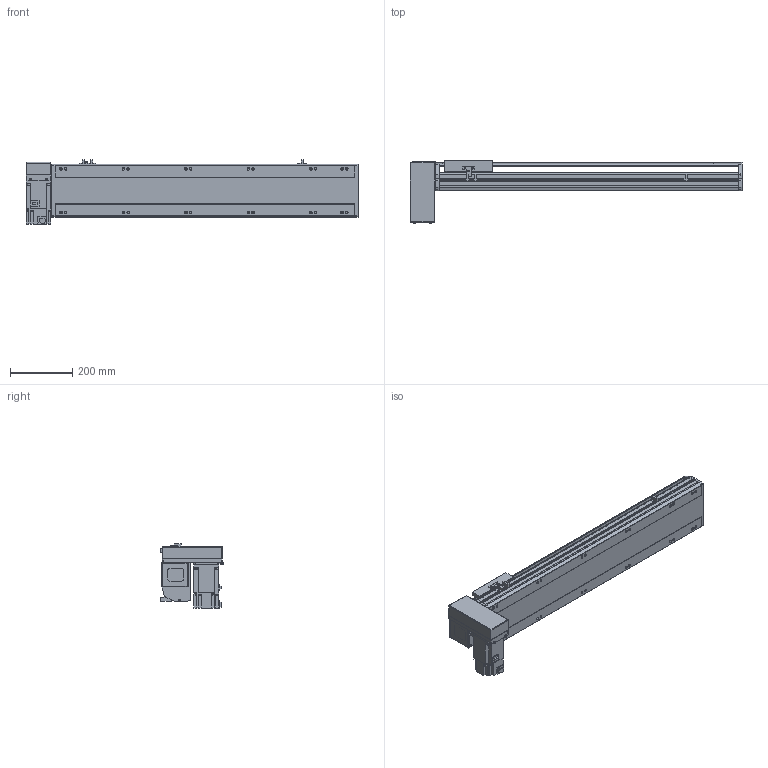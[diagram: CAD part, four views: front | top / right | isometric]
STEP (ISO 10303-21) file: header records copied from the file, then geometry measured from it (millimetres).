
FILE_DESCRIPTION(/* description */ ('STEP AP214'),/* implementation_level */ '2;1');
FILE_NAME(/* name */ 'PBS170-P40-S700-RD-T75-C1-N(0)',/* time_stamp */ '2022-06-08T07:34:42+02:00',/* author */ ('License CC BY-ND 4.0'),/* organization */ ('CADENAS'),/* preprocessor_version */ 'ST-DEVELOPER v18.102',/* originating_system */ 'PARTsolutions',/* authorisation */ ' ');
FILE_SCHEMA (('INTEGRATED_CNC_SCHEMA','AUTOMOTIVE_DESIGN {1 0 10303 214 3 1 1}'));
Length unit declared in the file: millimetre
Products named in the file (7): PBS170-P40-S700-RD-T75-C1-N(0); PBS170_sensor; PBS170_plant; PBS170_sliser; T75-p1; PBS170T-RD_motors; PBS170-S700()_body
Assembly tree (8 placements, depth 2):
  PBS170-P40-S700-RD-T75-C1-N(0)
    PBS170_sensor  x3
    PBS170_plant
    PBS170_sliser
    T75-p1
    PBS170T-RD_motors
    PBS170-S700()_body
Bounding box: 1063 x 201 x 205.3 mm (x, y, z)
Volume: 8851753.1 mm3; surface area: 1182694.4 mm2
Topology: 8 solids, 8 shells, 1050 faces, 2795 edges, 1822 vertices
Faces by surface type: plane 675, cylinder 323, cone 42, sphere 8, torus 2
Full cylindrical faces by diameter (mm): 3.242 x4, 4 x2, 4.4 x4, 4.5 x6, 4.917 x4, 6 x9, 6.647 x20, 7 x2, 7.5 x4, 8 x8, 8.5 x12, 10 x4, 10.5 x12, 11 x2, 30 x2, 40 x1, 70 x1
Entity records: 30202 total; most frequent: CARTESIAN_POINT 5489, DIRECTION 5160, ORIENTED_EDGE 4908, EDGE_CURVE 2454, AXIS2_PLACEMENT_3D 1777, VERTEX_POINT 1682, LINE 1606, VECTOR 1606
